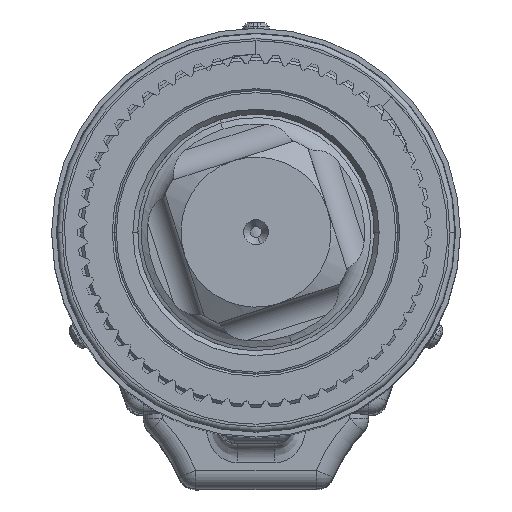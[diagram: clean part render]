
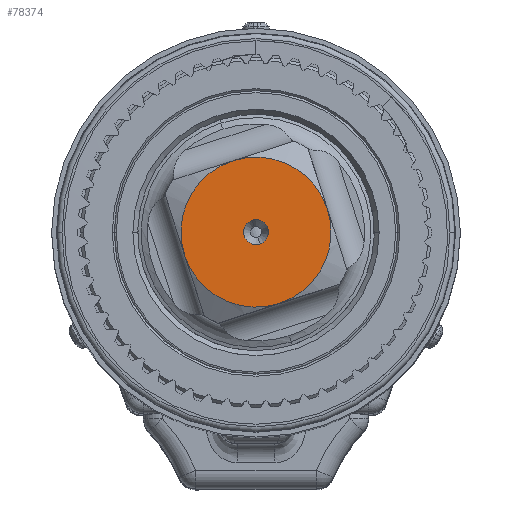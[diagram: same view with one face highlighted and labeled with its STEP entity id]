
A CAD part, top view. The second image highlights one B-rep face of the part: STEP entity #78374.
In plain terms, the highlighted planar face has unit normal (0, 0, 1).
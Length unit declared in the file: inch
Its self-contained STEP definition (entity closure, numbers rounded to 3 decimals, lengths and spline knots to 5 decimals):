
#6085 = VERTEX_POINT ( 'NONE', #112403 ) ;
#8029 = DIRECTION ( 'NONE',  ( 0., 0., 1. ) ) ;
#8926 = CARTESIAN_POINT ( 'NONE',  ( -0.22912, 0.71414, 4.1859 ) ) ;
#13208 = VERTEX_POINT ( 'NONE', #19911 ) ;
#15834 = CIRCLE ( 'NONE', #106619, 0.75 ) ;
#19390 = CARTESIAN_POINT ( 'NONE',  ( 0., 0., 4.1859 ) ) ;
#19425 = CIRCLE ( 'NONE', #99839, 0.75 ) ;
#19911 = CARTESIAN_POINT ( 'NONE',  ( -0.03819, 0.11902, 4.1859 ) ) ;
#20058 = EDGE_CURVE ( 'NONE', #130461, #13208, #68449, .T. ) ;
#20757 = FACE_BOUND ( 'NONE', #159092, .T. ) ;
#23665 = CARTESIAN_POINT ( 'NONE',  ( 0., 0., 4.1859 ) ) ;
#25714 = DIRECTION ( 'NONE',  ( -0.305, 0.952, 0. ) ) ;
#27580 = ORIENTED_EDGE ( 'NONE', *, *, #20058, .F. ) ;
#28820 = AXIS2_PLACEMENT_3D ( 'NONE', #143298, #119014, #56519 ) ;
#35109 = DIRECTION ( 'NONE',  ( -0.305, 0.952, 0. ) ) ;
#36181 = DIRECTION ( 'NONE',  ( 0.305, -0.952, 0. ) ) ;
#39533 = CARTESIAN_POINT ( 'NONE',  ( 0., 0., 4.1859 ) ) ;
#45875 = EDGE_CURVE ( 'NONE', #93095, #105905, #19425, .T. ) ;
#47604 = DIRECTION ( 'NONE',  ( 0., 0., -1. ) ) ;
#52740 = EDGE_CURVE ( 'NONE', #13208, #130461, #135211, .T. ) ;
#54978 = AXIS2_PLACEMENT_3D ( 'NONE', #19390, #79531, #55970 ) ;
#55970 = DIRECTION ( 'NONE',  ( -0.305, 0.952, 0. ) ) ;
#56519 = DIRECTION ( 'NONE',  ( -0.305, 0.952, 0. ) ) ;
#61844 = ORIENTED_EDGE ( 'NONE', *, *, #52740, .F. ) ;
#65743 = EDGE_CURVE ( 'NONE', #6085, #73970, #104026, .T. ) ;
#68449 = CIRCLE ( 'NONE', #143585, 0.125 ) ;
#73497 = PLANE ( 'NONE',  #134027 ) ;
#73970 = VERTEX_POINT ( 'NONE', #150332 ) ;
#76451 = DIRECTION ( 'NONE',  ( 0., 0., 1. ) ) ;
#78374 = ADVANCED_FACE ( 'NONE', ( #20757, #158727 ), #73497, .F. ) ;
#78551 = ORIENTED_EDGE ( 'NONE', *, *, #45875, .T. ) ;
#79531 = DIRECTION ( 'NONE',  ( 0., 0., 1. ) ) ;
#93095 = VERTEX_POINT ( 'NONE', #136923 ) ;
#99685 = CIRCLE ( 'NONE', #102247, 0.75 ) ;
#99839 = AXIS2_PLACEMENT_3D ( 'NONE', #39533, #150663, #25714 ) ;
#102247 = AXIS2_PLACEMENT_3D ( 'NONE', #125980, #76451, #106410 ) ;
#103324 = ORIENTED_EDGE ( 'NONE', *, *, #65743, .T. ) ;
#104026 = CIRCLE ( 'NONE', #28820, 0.75 ) ;
#105007 = EDGE_LOOP ( 'NONE', ( #103324, #158975, #78551, #126896 ) ) ;
#105905 = VERTEX_POINT ( 'NONE', #8926 ) ;
#106410 = DIRECTION ( 'NONE',  ( -0.305, 0.952, 0. ) ) ;
#106619 = AXIS2_PLACEMENT_3D ( 'NONE', #159007, #8029, #118524 ) ;
#112403 = CARTESIAN_POINT ( 'NONE',  ( -0.71414, -0.22912, 4.1859 ) ) ;
#118524 = DIRECTION ( 'NONE',  ( -0.305, 0.952, 0. ) ) ;
#119014 = DIRECTION ( 'NONE',  ( 0., 0., 1. ) ) ;
#119043 = EDGE_CURVE ( 'NONE', #73970, #93095, #15834, .T. ) ;
#125980 = CARTESIAN_POINT ( 'NONE',  ( 0., 0., 4.1859 ) ) ;
#126896 = ORIENTED_EDGE ( 'NONE', *, *, #154116, .T. ) ;
#130461 = VERTEX_POINT ( 'NONE', #141667 ) ;
#134027 = AXIS2_PLACEMENT_3D ( 'NONE', #147291, #47604, #36181 ) ;
#135211 = CIRCLE ( 'NONE', #54978, 0.125 ) ;
#136923 = CARTESIAN_POINT ( 'NONE',  ( 0.71414, 0.22912, 4.1859 ) ) ;
#141667 = CARTESIAN_POINT ( 'NONE',  ( 0.03819, -0.11902, 4.1859 ) ) ;
#143298 = CARTESIAN_POINT ( 'NONE',  ( 0., 0., 4.1859 ) ) ;
#143585 = AXIS2_PLACEMENT_3D ( 'NONE', #23665, #147801, #35109 ) ;
#147291 = CARTESIAN_POINT ( 'NONE',  ( -0.71414, -0.22912, 4.1859 ) ) ;
#147801 = DIRECTION ( 'NONE',  ( 0., 0., 1. ) ) ;
#150332 = CARTESIAN_POINT ( 'NONE',  ( 0.22912, -0.71414, 4.1859 ) ) ;
#150663 = DIRECTION ( 'NONE',  ( 0., 0., 1. ) ) ;
#154116 = EDGE_CURVE ( 'NONE', #105905, #6085, #99685, .T. ) ;
#158727 = FACE_OUTER_BOUND ( 'NONE', #105007, .T. ) ;
#158975 = ORIENTED_EDGE ( 'NONE', *, *, #119043, .T. ) ;
#159007 = CARTESIAN_POINT ( 'NONE',  ( 0., 0., 4.1859 ) ) ;
#159092 = EDGE_LOOP ( 'NONE', ( #61844, #27580 ) ) ;
